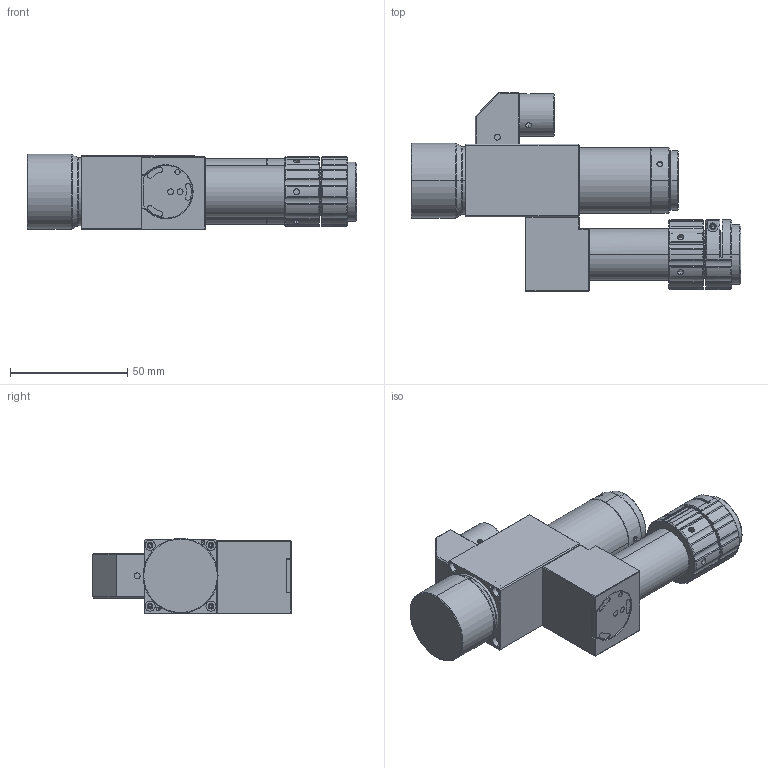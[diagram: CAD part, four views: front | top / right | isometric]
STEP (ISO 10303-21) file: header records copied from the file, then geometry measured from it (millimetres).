
FILE_DESCRIPTION (( 'STEP AP214' ), '1' );
FILE_NAME ('Áã¼þ1^PHDV10-60-108C.STEP', '2025-09-05T08:06:35', ( 'jg' ), ( '' ), 'SwSTEP 2.0', 'SolidWorks 2017', '' );
FILE_SCHEMA (( 'AUTOMOTIVE_DESIGN' ));
Length unit declared in the file: millimetre
Products named in the file (1): 錨璃1^PHDV10-60-108C
Bounding box: 140.83 x 84.76 x 32.2 mm (x, y, z)
Volume: 158557.5 mm3; surface area: 31081.6 mm2
Topology: 1 solids, 9 shells, 550 faces, 1351 edges, 856 vertices
Faces by surface type: cylinder 268, plane 166, cone 112, torus 4
Entity records: 18160 total; most frequent: CARTESIAN_POINT 4745, ORIENTED_EDGE 2666, DIRECTION 2657, EDGE_CURVE 1333, AXIS2_PLACEMENT_3D 1054, VERTEX_POINT 856, EDGE_LOOP 615, ADVANCED_FACE 550
